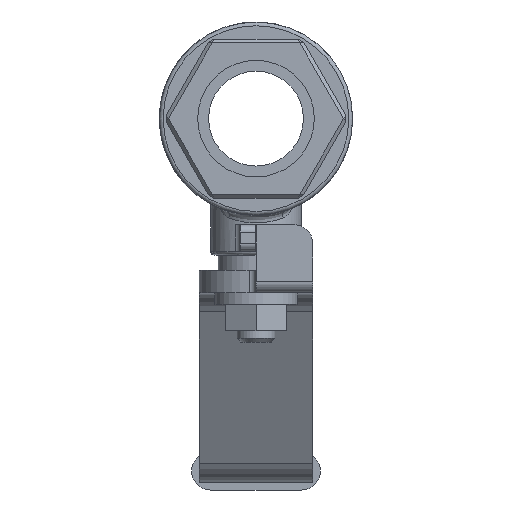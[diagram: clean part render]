
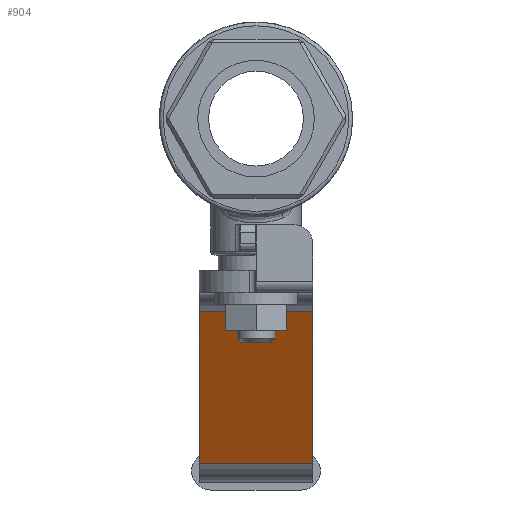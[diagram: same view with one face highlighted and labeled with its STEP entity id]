
A CAD part, left-side view. The second image highlights one B-rep face of the part: STEP entity #904.
In plain terms, the highlighted planar face has unit normal (-0.866, 0, -0.5).
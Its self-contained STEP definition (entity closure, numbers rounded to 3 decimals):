
#904 = ADVANCED_FACE( '', ( #1871 ), #1872, .F. );
#1871 = FACE_OUTER_BOUND( '', #4301, .T. );
#1872 = PLANE( '', #4302 );
#4301 = EDGE_LOOP( '', ( #7260, #7261, #7262, #7263 ) );
#4302 = AXIS2_PLACEMENT_3D( '', #7264, #7265, #7266 );
#7260 = ORIENTED_EDGE( '', *, *, #8256, .T. );
#7261 = ORIENTED_EDGE( '', *, *, #7798, .F. );
#7262 = ORIENTED_EDGE( '', *, *, #8021, .F. );
#7263 = ORIENTED_EDGE( '', *, *, #8165, .T. );
#7264 = CARTESIAN_POINT( '', ( 28.884, -7.5, -25.5 ) );
#7265 = DIRECTION( '', ( 0.866, 0., 0.5 ) );
#7266 = DIRECTION( '', ( 0.5, 0., -0.866 ) );
#7798 = EDGE_CURVE( '', #9089, #9084, #9091, .T. );
#8021 = EDGE_CURVE( '', #9394, #9089, #9396, .T. );
#8165 = EDGE_CURVE( '', #9394, #9579, #9581, .T. );
#8256 = EDGE_CURVE( '', #9579, #9084, #9683, .T. );
#9084 = VERTEX_POINT( '', #11714 );
#9089 = VERTEX_POINT( '', #11720 );
#9091 = LINE( '', #11722, #11723 );
#9394 = VERTEX_POINT( '', #12670 );
#9396 = LINE( '', #12672, #12673 );
#9579 = VERTEX_POINT( '', #13351 );
#9581 = LINE( '', #13353, #13354 );
#9683 = LINE( '', #13528, #13529 );
#11714 = CARTESIAN_POINT( '', ( 40.431, 7.5, -45.5 ) );
#11720 = CARTESIAN_POINT( '', ( 40.431, -7.5, -45.5 ) );
#11722 = CARTESIAN_POINT( '', ( 40.431, -7.5, -45.5 ) );
#11723 = VECTOR( '', #13871, 1000. );
#12670 = CARTESIAN_POINT( '', ( 28.884, -7.5, -25.5 ) );
#12672 = CARTESIAN_POINT( '', ( 28.884, -7.5, -25.5 ) );
#12673 = VECTOR( '', #14001, 1000. );
#13351 = CARTESIAN_POINT( '', ( 28.884, 7.5, -25.5 ) );
#13353 = CARTESIAN_POINT( '', ( 28.884, -7.5, -25.5 ) );
#13354 = VECTOR( '', #14101, 1000. );
#13528 = CARTESIAN_POINT( '', ( 28.884, 7.5, -25.5 ) );
#13529 = VECTOR( '', #14148, 1000. );
#13871 = DIRECTION( '', ( 0., 1., 0. ) );
#14001 = DIRECTION( '', ( 0.5, 0., -0.866 ) );
#14101 = DIRECTION( '', ( 0., 1., 0. ) );
#14148 = DIRECTION( '', ( 0.5, 0., -0.866 ) );
